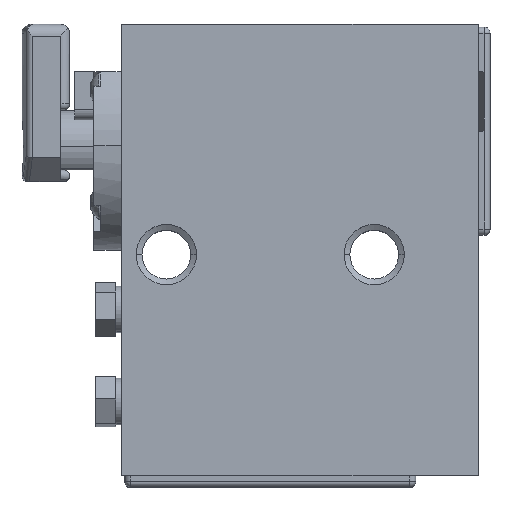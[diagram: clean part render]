
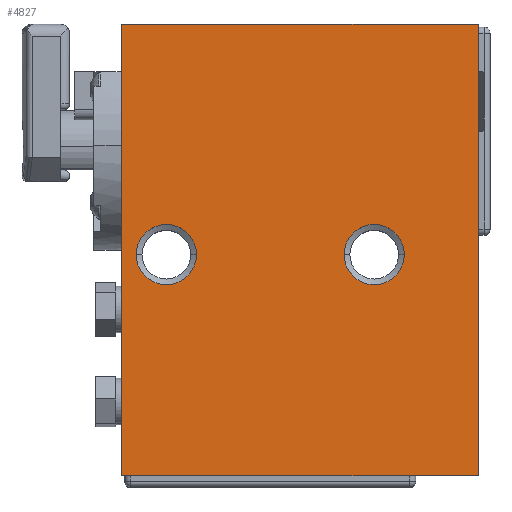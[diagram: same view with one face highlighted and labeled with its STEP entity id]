
A CAD part, top view. The second image highlights one B-rep face of the part: STEP entity #4827.
In plain terms, the highlighted planar face has unit normal (0, 0, 1).
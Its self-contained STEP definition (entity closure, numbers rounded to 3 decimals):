
#8 = EDGE_CURVE ( 'NONE', #5909, #6722, #3576, .T. ) ;
#203 = VERTEX_POINT ( 'NONE', #5962 ) ;
#284 = CARTESIAN_POINT ( 'NONE',  ( 7.5, 37.2, 40. ) ) ;
#340 = CARTESIAN_POINT ( 'NONE',  ( 0., 76., 40. ) ) ;
#358 = CARTESIAN_POINT ( 'NONE',  ( 7.5, 37.2, 40. ) ) ;
#550 = DIRECTION ( 'NONE',  ( 0., 0., -1. ) ) ;
#888 = CARTESIAN_POINT ( 'NONE',  ( 37.425, 37.2, 40. ) ) ;
#957 = ORIENTED_EDGE ( 'NONE', *, *, #1853, .T. ) ;
#986 = EDGE_CURVE ( 'NONE', #4491, #2607, #8653, .T. ) ;
#1162 = CARTESIAN_POINT ( 'NONE',  ( 0., 0., 40. ) ) ;
#1166 = EDGE_CURVE ( 'NONE', #6722, #5909, #3362, .T. ) ;
#1235 = FACE_BOUND ( 'NONE', #1656, .T. ) ;
#1565 = CARTESIAN_POINT ( 'NONE',  ( 47.575, 37.2, 40. ) ) ;
#1656 = EDGE_LOOP ( 'NONE', ( #2367, #3166 ) ) ;
#1727 = CARTESIAN_POINT ( 'NONE',  ( 42.5, 37.2, 40. ) ) ;
#1782 = DIRECTION ( 'NONE',  ( 1., 0., 0. ) ) ;
#1823 = DIRECTION ( 'NONE',  ( 1., 0., 0. ) ) ;
#1827 = VECTOR ( 'NONE', #7906, 1000. ) ;
#1830 = DIRECTION ( 'NONE',  ( 1., 0., 0. ) ) ;
#1853 = EDGE_CURVE ( 'NONE', #7795, #203, #8176, .T. ) ;
#1930 = DIRECTION ( 'NONE',  ( -1., 0., 0. ) ) ;
#1968 = CARTESIAN_POINT ( 'NONE',  ( 60., 0., 40. ) ) ;
#2063 = EDGE_CURVE ( 'NONE', #2607, #7795, #5590, .T. ) ;
#2125 = CARTESIAN_POINT ( 'NONE',  ( 42.5, 37.2, 40. ) ) ;
#2277 = ORIENTED_EDGE ( 'NONE', *, *, #7940, .F. ) ;
#2367 = ORIENTED_EDGE ( 'NONE', *, *, #1166, .F. ) ;
#2441 = FACE_OUTER_BOUND ( 'NONE', #3776, .T. ) ;
#2607 = VERTEX_POINT ( 'NONE', #3270 ) ;
#2795 = LINE ( 'NONE', #1162, #4107 ) ;
#2987 = AXIS2_PLACEMENT_3D ( 'NONE', #284, #5248, #8695 ) ;
#3087 = VECTOR ( 'NONE', #1930, 1000. ) ;
#3166 = ORIENTED_EDGE ( 'NONE', *, *, #8, .F. ) ;
#3209 = ORIENTED_EDGE ( 'NONE', *, *, #986, .T. ) ;
#3270 = CARTESIAN_POINT ( 'NONE',  ( 60., 76., 40. ) ) ;
#3305 = AXIS2_PLACEMENT_3D ( 'NONE', #2125, #8320, #5504 ) ;
#3362 = CIRCLE ( 'NONE', #4943, 5.075 ) ;
#3576 = CIRCLE ( 'NONE', #2987, 5.075 ) ;
#3776 = EDGE_LOOP ( 'NONE', ( #957, #7980, #3209, #5534 ) ) ;
#3812 = CARTESIAN_POINT ( 'NONE',  ( 0., 76., 40. ) ) ;
#3862 = CIRCLE ( 'NONE', #6929, 5.075 ) ;
#3893 = DIRECTION ( 'NONE',  ( 0., 0., 1. ) ) ;
#3917 = DIRECTION ( 'NONE',  ( 0., 0., 1. ) ) ;
#3964 = EDGE_CURVE ( 'NONE', #203, #4491, #2795, .T. ) ;
#4107 = VECTOR ( 'NONE', #1823, 1000. ) ;
#4491 = VERTEX_POINT ( 'NONE', #1968 ) ;
#4513 = PLANE ( 'NONE',  #5971 ) ;
#4827 = ADVANCED_FACE ( 'NONE', ( #1235, #7861, #2441 ), #4513, .F. ) ;
#4943 = AXIS2_PLACEMENT_3D ( 'NONE', #358, #3917, #1830 ) ;
#5172 = EDGE_CURVE ( 'NONE', #7102, #8066, #3862, .T. ) ;
#5248 = DIRECTION ( 'NONE',  ( 0., 0., 1. ) ) ;
#5504 = DIRECTION ( 'NONE',  ( 1., 0., 0. ) ) ;
#5534 = ORIENTED_EDGE ( 'NONE', *, *, #2063, .T. ) ;
#5590 = LINE ( 'NONE', #7450, #3087 ) ;
#5643 = EDGE_LOOP ( 'NONE', ( #5803, #2277 ) ) ;
#5803 = ORIENTED_EDGE ( 'NONE', *, *, #5172, .F. ) ;
#5909 = VERTEX_POINT ( 'NONE', #8210 ) ;
#5962 = CARTESIAN_POINT ( 'NONE',  ( 0., 0., 40. ) ) ;
#5971 = AXIS2_PLACEMENT_3D ( 'NONE', #340, #550, #7223 ) ;
#6028 = VECTOR ( 'NONE', #6701, 1000. ) ;
#6441 = CARTESIAN_POINT ( 'NONE',  ( 0., 0., 40. ) ) ;
#6701 = DIRECTION ( 'NONE',  ( 0., -1., 0. ) ) ;
#6722 = VERTEX_POINT ( 'NONE', #7965 ) ;
#6929 = AXIS2_PLACEMENT_3D ( 'NONE', #1727, #3893, #1782 ) ;
#7102 = VERTEX_POINT ( 'NONE', #1565 ) ;
#7223 = DIRECTION ( 'NONE',  ( -1., 0., 0. ) ) ;
#7450 = CARTESIAN_POINT ( 'NONE',  ( 0., 76., 40. ) ) ;
#7795 = VERTEX_POINT ( 'NONE', #3812 ) ;
#7861 = FACE_BOUND ( 'NONE', #5643, .T. ) ;
#7906 = DIRECTION ( 'NONE',  ( 0., 1., 0. ) ) ;
#7940 = EDGE_CURVE ( 'NONE', #8066, #7102, #8340, .T. ) ;
#7965 = CARTESIAN_POINT ( 'NONE',  ( 12.575, 37.2, 40. ) ) ;
#7980 = ORIENTED_EDGE ( 'NONE', *, *, #3964, .T. ) ;
#8066 = VERTEX_POINT ( 'NONE', #888 ) ;
#8176 = LINE ( 'NONE', #6441, #6028 ) ;
#8210 = CARTESIAN_POINT ( 'NONE',  ( 2.425, 37.2, 40. ) ) ;
#8320 = DIRECTION ( 'NONE',  ( 0., 0., 1. ) ) ;
#8340 = CIRCLE ( 'NONE', #3305, 5.075 ) ;
#8588 = CARTESIAN_POINT ( 'NONE',  ( 60., 0., 40. ) ) ;
#8653 = LINE ( 'NONE', #8588, #1827 ) ;
#8695 = DIRECTION ( 'NONE',  ( 1., 0., 0. ) ) ;
